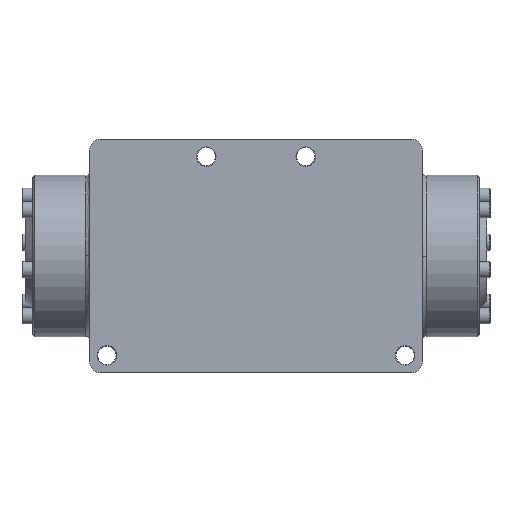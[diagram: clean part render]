
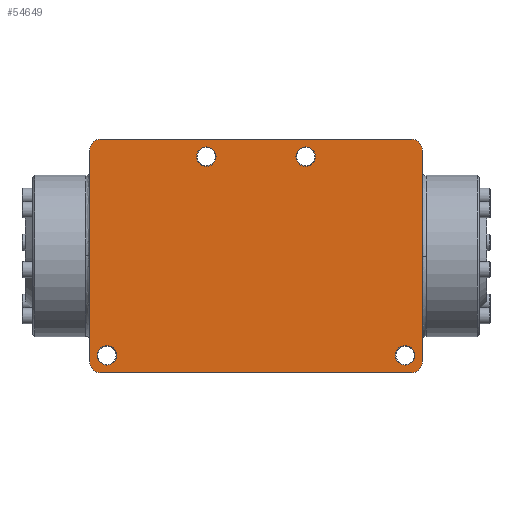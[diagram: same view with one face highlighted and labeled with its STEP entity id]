
A CAD part, front view. The second image highlights one B-rep face of the part: STEP entity #54649.
In plain terms, the highlighted planar face has unit normal (0, -1, 0).
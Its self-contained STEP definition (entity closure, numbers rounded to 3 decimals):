
#1157=FACE_BOUND('',#15332,.T.);
#1158=FACE_BOUND('',#15333,.T.);
#1159=FACE_BOUND('',#15334,.T.);
#1160=FACE_BOUND('',#15335,.T.);
#3165=LINE('',#87852,#6893);
#3166=LINE('',#87856,#6894);
#3167=LINE('',#87860,#6895);
#3168=LINE('',#87863,#6896);
#6893=VECTOR('',#67525,1.);
#6894=VECTOR('',#67528,1.);
#6895=VECTOR('',#67531,1.);
#6896=VECTOR('',#67534,1.);
#10029=PLANE('',#58895);
#11916=FACE_OUTER_BOUND('',#15331,.T.);
#15331=EDGE_LOOP('',(#39120,#39121,#39122,#39123,#39124,#39125,#39126,#39127));
#15332=EDGE_LOOP('',(#39128));
#15333=EDGE_LOOP('',(#39129));
#15334=EDGE_LOOP('',(#39130));
#15335=EDGE_LOOP('',(#39131));
#18827=CIRCLE('',#58862,0.714);
#18829=CIRCLE('',#58865,0.714);
#18831=CIRCLE('',#58868,0.714);
#18833=CIRCLE('',#58871,0.714);
#18843=CIRCLE('',#58896,0.794);
#18844=CIRCLE('',#58897,0.794);
#18845=CIRCLE('',#58898,0.794);
#18846=CIRCLE('',#58899,0.794);
#23445=VERTEX_POINT('',#87780);
#23447=VERTEX_POINT('',#87786);
#23449=VERTEX_POINT('',#87792);
#23451=VERTEX_POINT('',#87798);
#23461=VERTEX_POINT('',#87848);
#23462=VERTEX_POINT('',#87849);
#23463=VERTEX_POINT('',#87851);
#23464=VERTEX_POINT('',#87853);
#23465=VERTEX_POINT('',#87855);
#23466=VERTEX_POINT('',#87857);
#23467=VERTEX_POINT('',#87859);
#23468=VERTEX_POINT('',#87861);
#29224=EDGE_CURVE('',#23445,#23445,#18827,.T.);
#29227=EDGE_CURVE('',#23447,#23447,#18829,.T.);
#29230=EDGE_CURVE('',#23449,#23449,#18831,.T.);
#29233=EDGE_CURVE('',#23451,#23451,#18833,.T.);
#29258=EDGE_CURVE('',#23461,#23462,#18843,.T.);
#29259=EDGE_CURVE('',#23462,#23463,#3165,.T.);
#29260=EDGE_CURVE('',#23463,#23464,#18844,.T.);
#29261=EDGE_CURVE('',#23464,#23465,#3166,.T.);
#29262=EDGE_CURVE('',#23465,#23466,#18845,.T.);
#29263=EDGE_CURVE('',#23466,#23467,#3167,.T.);
#29264=EDGE_CURVE('',#23467,#23468,#18846,.T.);
#29265=EDGE_CURVE('',#23468,#23461,#3168,.T.);
#39120=ORIENTED_EDGE('',*,*,#29258,.T.);
#39121=ORIENTED_EDGE('',*,*,#29259,.T.);
#39122=ORIENTED_EDGE('',*,*,#29260,.T.);
#39123=ORIENTED_EDGE('',*,*,#29261,.T.);
#39124=ORIENTED_EDGE('',*,*,#29262,.T.);
#39125=ORIENTED_EDGE('',*,*,#29263,.T.);
#39126=ORIENTED_EDGE('',*,*,#29264,.T.);
#39127=ORIENTED_EDGE('',*,*,#29265,.T.);
#39128=ORIENTED_EDGE('',*,*,#29224,.T.);
#39129=ORIENTED_EDGE('',*,*,#29227,.T.);
#39130=ORIENTED_EDGE('',*,*,#29230,.T.);
#39131=ORIENTED_EDGE('',*,*,#29233,.T.);
#54649=ADVANCED_FACE('',(#11916,#1157,#1158,#1159,#1160),#10029,.T.);
#58862=AXIS2_PLACEMENT_3D('',#87781,#67437,#67438);
#58865=AXIS2_PLACEMENT_3D('',#87787,#67444,#67445);
#58868=AXIS2_PLACEMENT_3D('',#87793,#67451,#67452);
#58871=AXIS2_PLACEMENT_3D('',#87799,#67458,#67459);
#58895=AXIS2_PLACEMENT_3D('',#87847,#67521,#67522);
#58896=AXIS2_PLACEMENT_3D('',#87850,#67523,#67524);
#58897=AXIS2_PLACEMENT_3D('',#87854,#67526,#67527);
#58898=AXIS2_PLACEMENT_3D('',#87858,#67529,#67530);
#58899=AXIS2_PLACEMENT_3D('',#87862,#67532,#67533);
#67437=DIRECTION('center_axis',(0.,1.,0.));
#67438=DIRECTION('ref_axis',(1.,0.,0.));
#67444=DIRECTION('center_axis',(0.,1.,0.));
#67445=DIRECTION('ref_axis',(1.,0.,0.));
#67451=DIRECTION('center_axis',(0.,1.,0.));
#67452=DIRECTION('ref_axis',(1.,0.,0.));
#67458=DIRECTION('center_axis',(0.,1.,0.));
#67459=DIRECTION('ref_axis',(1.,0.,0.));
#67521=DIRECTION('center_axis',(0.,-1.,0.));
#67522=DIRECTION('ref_axis',(1.,0.,0.));
#67523=DIRECTION('center_axis',(0.,-1.,0.));
#67524=DIRECTION('ref_axis',(0.707,0.,-0.707));
#67525=DIRECTION('',(0.,0.,1.));
#67526=DIRECTION('center_axis',(0.,-1.,0.));
#67527=DIRECTION('ref_axis',(0.707,0.,0.707));
#67528=DIRECTION('',(-1.,0.,0.));
#67529=DIRECTION('center_axis',(0.,-1.,0.));
#67530=DIRECTION('ref_axis',(-0.707,0.,0.707));
#67531=DIRECTION('',(0.,0.,-1.));
#67532=DIRECTION('center_axis',(0.,-1.,0.));
#67533=DIRECTION('ref_axis',(-0.707,0.,-0.707));
#67534=DIRECTION('',(1.,0.,0.));
#87780=CARTESIAN_POINT('',(2.936,-6.35,7.303));
#87781=CARTESIAN_POINT('Origin',(3.65,-6.35,7.303));
#87786=CARTESIAN_POINT('',(-11.667,-6.35,-7.303));
#87787=CARTESIAN_POINT('Origin',(-10.952,-6.35,-7.303));
#87792=CARTESIAN_POINT('',(10.238,-6.35,-7.303));
#87793=CARTESIAN_POINT('Origin',(10.952,-6.35,-7.303));
#87798=CARTESIAN_POINT('',(-4.364,-6.35,7.303));
#87799=CARTESIAN_POINT('Origin',(-3.65,-6.35,7.303));
#87847=CARTESIAN_POINT('Origin',(-12.51,-6.35,0.));
#87848=CARTESIAN_POINT('',(11.43,-6.35,-8.572));
#87849=CARTESIAN_POINT('',(12.224,-6.35,-7.779));
#87850=CARTESIAN_POINT('Origin',(11.43,-6.35,-7.779));
#87851=CARTESIAN_POINT('',(12.224,-6.35,7.779));
#87852=CARTESIAN_POINT('',(12.224,-6.35,-4.286));
#87853=CARTESIAN_POINT('',(11.43,-6.35,8.573));
#87854=CARTESIAN_POINT('Origin',(11.43,-6.35,7.779));
#87855=CARTESIAN_POINT('',(-11.43,-6.35,8.573));
#87856=CARTESIAN_POINT('',(-0.143,-6.35,8.573));
#87857=CARTESIAN_POINT('',(-12.224,-6.35,7.779));
#87858=CARTESIAN_POINT('Origin',(-11.43,-6.35,7.779));
#87859=CARTESIAN_POINT('',(-12.224,-6.35,-7.779));
#87860=CARTESIAN_POINT('',(-12.224,-6.35,4.286));
#87861=CARTESIAN_POINT('',(-11.43,-6.35,-8.573));
#87862=CARTESIAN_POINT('Origin',(-11.43,-6.35,-7.779));
#87863=CARTESIAN_POINT('',(-12.367,-6.35,-8.573));
